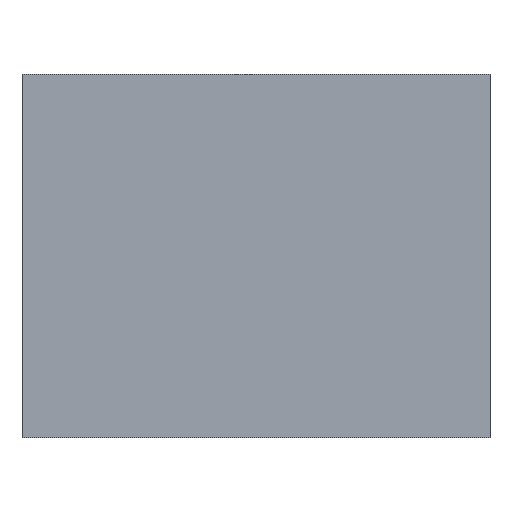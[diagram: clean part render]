
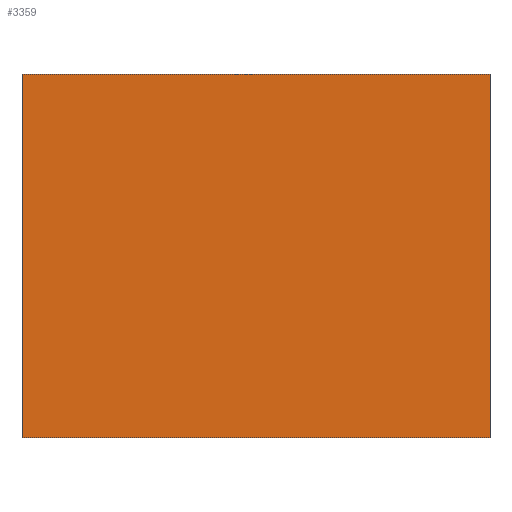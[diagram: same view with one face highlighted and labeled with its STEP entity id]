
A CAD part, top view. The second image highlights one B-rep face of the part: STEP entity #3359.
In plain terms, the highlighted planar face has unit normal (0, 0, 1).
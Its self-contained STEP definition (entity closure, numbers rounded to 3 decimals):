
#3223=CARTESIAN_POINT('Vertex',(112.,87.,44.)) ;
#3237=CARTESIAN_POINT('Vertex',(-112.,87.,44.)) ;
#3240=CARTESIAN_POINT('Line Origine',(0.,87.,44.)) ;
#3268=CARTESIAN_POINT('Vertex',(-112.,-87.,44.)) ;
#3271=CARTESIAN_POINT('Line Origine',(-112.,0.,44.)) ;
#3299=CARTESIAN_POINT('Vertex',(112.,-87.,44.)) ;
#3302=CARTESIAN_POINT('Line Origine',(0.,-87.,44.)) ;
#3324=CARTESIAN_POINT('Line Origine',(112.,0.,44.)) ;
#3348=CARTESIAN_POINT('Axis2P3D Location',(0.,0.,44.)) ;
#3241=DIRECTION('Vector Direction',(1.,0.,0.)) ;
#3272=DIRECTION('Vector Direction',(0.,1.,0.)) ;
#3303=DIRECTION('Vector Direction',(-1.,0.,0.)) ;
#3325=DIRECTION('Vector Direction',(0.,-1.,0.)) ;
#3349=DIRECTION('Axis2P3D Direction',(0.,0.,1.)) ;
#3350=DIRECTION('Axis2P3D XDirection',(1.,0.,0.)) ;
#3351=AXIS2_PLACEMENT_3D('Plane Axis2P3D',#3348,#3349,#3350) ;
#3354=ORIENTED_EDGE('',*,*,#3244,.T.) ;
#3355=ORIENTED_EDGE('',*,*,#3275,.T.) ;
#3356=ORIENTED_EDGE('',*,*,#3306,.T.) ;
#3357=ORIENTED_EDGE('',*,*,#3328,.T.) ;
#3242=VECTOR('Line Direction',#3241,1.) ;
#3273=VECTOR('Line Direction',#3272,1.) ;
#3304=VECTOR('Line Direction',#3303,1.) ;
#3326=VECTOR('Line Direction',#3325,1.) ;
#3359=ADVANCED_FACE('cavity',(#3358),#3352,.T.) ;
#3244=EDGE_CURVE('',#3224,#3238,#3243,.F.) ;
#3275=EDGE_CURVE('',#3238,#3269,#3274,.F.) ;
#3306=EDGE_CURVE('',#3269,#3300,#3305,.F.) ;
#3328=EDGE_CURVE('',#3300,#3224,#3327,.F.) ;
#3353=EDGE_LOOP('',(#3354,#3355,#3356,#3357)) ;
#3358=FACE_OUTER_BOUND('',#3353,.T.) ;
#3243=LINE('Line',#3240,#3242) ;
#3274=LINE('Line',#3271,#3273) ;
#3305=LINE('Line',#3302,#3304) ;
#3327=LINE('Line',#3324,#3326) ;
#3352=PLANE('Plane',#3351) ;
#3224=VERTEX_POINT('',#3223) ;
#3238=VERTEX_POINT('',#3237) ;
#3269=VERTEX_POINT('',#3268) ;
#3300=VERTEX_POINT('',#3299) ;
